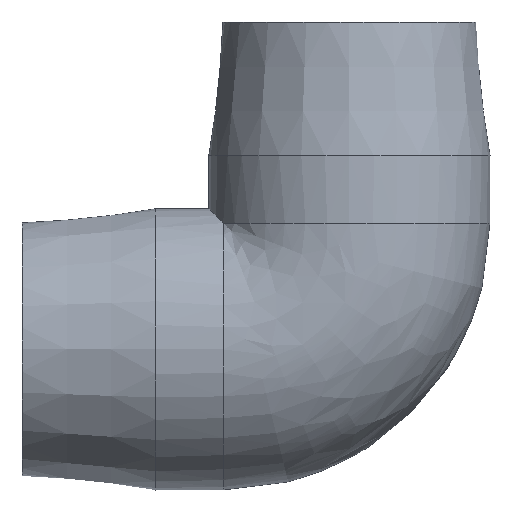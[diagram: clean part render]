
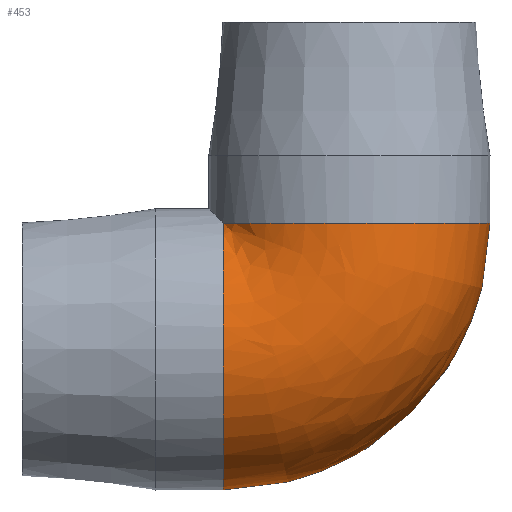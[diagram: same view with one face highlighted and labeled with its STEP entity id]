
A CAD part, front view. The second image highlights one B-rep face of the part: STEP entity #453.
In plain terms, the highlighted free-form (B-spline) face has degree [2, 2] with [9, 3] control points.
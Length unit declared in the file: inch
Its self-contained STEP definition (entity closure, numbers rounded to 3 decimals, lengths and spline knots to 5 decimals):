
#27=(
BOUNDED_SURFACE()
B_SPLINE_SURFACE(2,2,((#763,#764,#765),(#766,#767,#768),(#769,#770,#771),
(#772,#773,#774),(#775,#776,#777),(#778,#779,#780),(#781,#782,#783),(#784,
#785,#786),(#787,#788,#789)),.UNSPECIFIED.,.F.,.F.,.F.)
B_SPLINE_SURFACE_WITH_KNOTS((3,2,2,2,3),(3,3),(-2.68544,-1.34272,
0.,1.34272,2.68544),(0.,1.5708),
 .UNSPECIFIED.)
GEOMETRIC_REPRESENTATION_ITEM()
RATIONAL_B_SPLINE_SURFACE(((1.,0.707,1.),(0.783,
0.554,0.783),(1.,0.707,1.),(0.783,
0.554,0.783),(1.,0.707,1.),(0.783,
0.554,0.783),(1.,0.707,1.),(0.783,
0.554,0.783),(1.,0.707,1.)))
REPRESENTATION_ITEM('')
SURFACE()
);
#88=FACE_OUTER_BOUND('',#120,.T.);
#120=EDGE_LOOP('',(#323,#324,#325,#326));
#164=CIRCLE('',#513,1.335);
#165=CIRCLE('',#514,1.335);
#166=CIRCLE('',#515,1.335);
#167=CIRCLE('',#516,1.335);
#207=VERTEX_POINT('',#790);
#208=VERTEX_POINT('',#791);
#209=VERTEX_POINT('',#793);
#210=VERTEX_POINT('',#795);
#255=EDGE_CURVE('',#207,#208,#164,.T.);
#256=EDGE_CURVE('',#208,#209,#165,.T.);
#257=EDGE_CURVE('',#209,#210,#166,.T.);
#258=EDGE_CURVE('',#210,#207,#167,.T.);
#323=ORIENTED_EDGE('',*,*,#255,.T.);
#324=ORIENTED_EDGE('',*,*,#256,.T.);
#325=ORIENTED_EDGE('',*,*,#257,.T.);
#326=ORIENTED_EDGE('',*,*,#258,.T.);
#453=ADVANCED_FACE('',(#88),#27,.F.);
#513=AXIS2_PLACEMENT_3D('',#792,#606,#607);
#514=AXIS2_PLACEMENT_3D('',#794,#608,#609);
#515=AXIS2_PLACEMENT_3D('',#796,#610,#611);
#516=AXIS2_PLACEMENT_3D('',#797,#612,#613);
#606=DIRECTION('center_axis',(0.,0.,
-1.));
#607=DIRECTION('ref_axis',(-1.,0.,0.));
#608=DIRECTION('center_axis',(0.,0.,
-1.));
#609=DIRECTION('ref_axis',(-1.,0.,0.));
#610=DIRECTION('center_axis',(1.,0.,0.));
#611=DIRECTION('ref_axis',(0.,0.,-1.));
#612=DIRECTION('center_axis',(1.,0.,0.));
#613=DIRECTION('ref_axis',(0.,0.,-1.));
#763=CARTESIAN_POINT('Ctrl Pts',(-1.1985,0.58807,1.1985));
#764=CARTESIAN_POINT('Ctrl Pts',(-1.1985,0.58807,1.1985));
#765=CARTESIAN_POINT('Ctrl Pts',(-1.1985,0.58807,1.1985));
#766=CARTESIAN_POINT('Ctrl Pts',(-1.1985,1.54024,0.7313));
#767=CARTESIAN_POINT('Ctrl Pts',(-0.7313,1.54024,0.7313));
#768=CARTESIAN_POINT('Ctrl Pts',(-0.7313,1.54024,1.1985));
#769=CARTESIAN_POINT('Ctrl Pts',(-1.1985,1.30043,-0.30185));
#770=CARTESIAN_POINT('Ctrl Pts',(0.30185,1.30043,-0.30185));
#771=CARTESIAN_POINT('Ctrl Pts',(0.30185,1.30043,1.1985));
#772=CARTESIAN_POINT('Ctrl Pts',(-1.1985,1.06062,-1.335));
#773=CARTESIAN_POINT('Ctrl Pts',(1.335,1.06062,-1.335));
#774=CARTESIAN_POINT('Ctrl Pts',(1.335,1.06062,1.1985));
#775=CARTESIAN_POINT('Ctrl Pts',(-1.1985,0.,-1.335));
#776=CARTESIAN_POINT('Ctrl Pts',(1.335,0.,-1.335));
#777=CARTESIAN_POINT('Ctrl Pts',(1.335,0.,1.1985));
#778=CARTESIAN_POINT('Ctrl Pts',(-1.1985,-1.06062,-1.335));
#779=CARTESIAN_POINT('Ctrl Pts',(1.335,-1.06062,-1.335));
#780=CARTESIAN_POINT('Ctrl Pts',(1.335,-1.06062,1.1985));
#781=CARTESIAN_POINT('Ctrl Pts',(-1.1985,-1.30043,-0.30185));
#782=CARTESIAN_POINT('Ctrl Pts',(0.30185,-1.30043,-0.30185));
#783=CARTESIAN_POINT('Ctrl Pts',(0.30185,-1.30043,1.1985));
#784=CARTESIAN_POINT('Ctrl Pts',(-1.1985,-1.54024,0.7313));
#785=CARTESIAN_POINT('Ctrl Pts',(-0.7313,-1.54024,0.7313));
#786=CARTESIAN_POINT('Ctrl Pts',(-0.7313,-1.54024,1.1985));
#787=CARTESIAN_POINT('Ctrl Pts',(-1.1985,-0.58807,1.1985));
#788=CARTESIAN_POINT('Ctrl Pts',(-1.1985,-0.58807,1.1985));
#789=CARTESIAN_POINT('Ctrl Pts',(-1.1985,-0.58807,1.1985));
#790=CARTESIAN_POINT('',(-1.1985,0.58807,1.1985));
#791=CARTESIAN_POINT('',(0.,-1.335,1.1985));
#792=CARTESIAN_POINT('Origin',(0.,0.,
1.1985));
#793=CARTESIAN_POINT('',(-1.1985,-0.58807,1.1985));
#794=CARTESIAN_POINT('Origin',(0.,0.,
1.1985));
#795=CARTESIAN_POINT('',(-1.1985,-1.335,0.));
#796=CARTESIAN_POINT('Origin',(-1.1985,0.,0.));
#797=CARTESIAN_POINT('Origin',(-1.1985,0.,0.));
